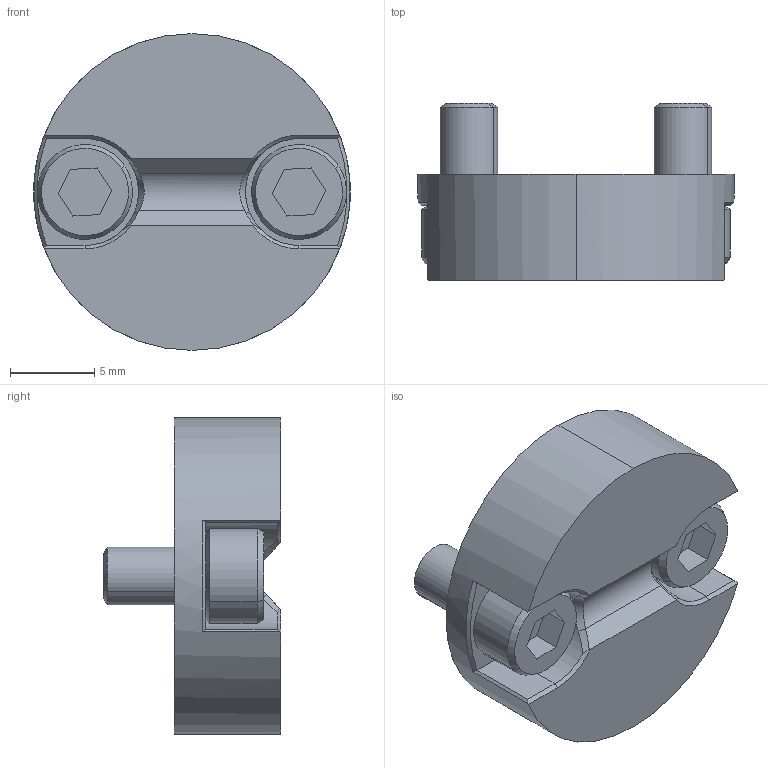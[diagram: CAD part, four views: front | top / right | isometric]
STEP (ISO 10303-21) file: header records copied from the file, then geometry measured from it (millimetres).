
FILE_DESCRIPTION (( 'STEP AP203' ), '1' );
FILE_NAME ('SRTC-30.STEP', '2012-09-12T23:25:27', ( '' ), ( '' ), 'SwSTEP 2.0', 'SolidWorks 2010', '' );
FILE_SCHEMA (( 'CONFIG_CONTROL_DESIGN' ));
Length unit declared in the file: inch
Products named in the file (3): SRTC-30; SRTC-30_SHCS
Assembly tree (3 placements, depth 2):
  SRTC-30
    SRTC-30_SHCS  x2
    SRTC-30
Bounding box: 18.8 x 10.52 x 18.8 mm (x, y, z)
Volume: 1635 mm3; surface area: 1359.2 mm2
Topology: 3 solids, 3 shells, 80 faces, 190 edges, 120 vertices
Faces by surface type: plane 39, cone 18, cylinder 17, bspline 6
Entity records: 2223 total; most frequent: CARTESIAN_POINT 512, ORIENTED_EDGE 296, DIRECTION 274, EDGE_CURVE 148, AXIS2_PLACEMENT_3D 102, VERTEX_POINT 94, VECTOR 70, LINE 70
